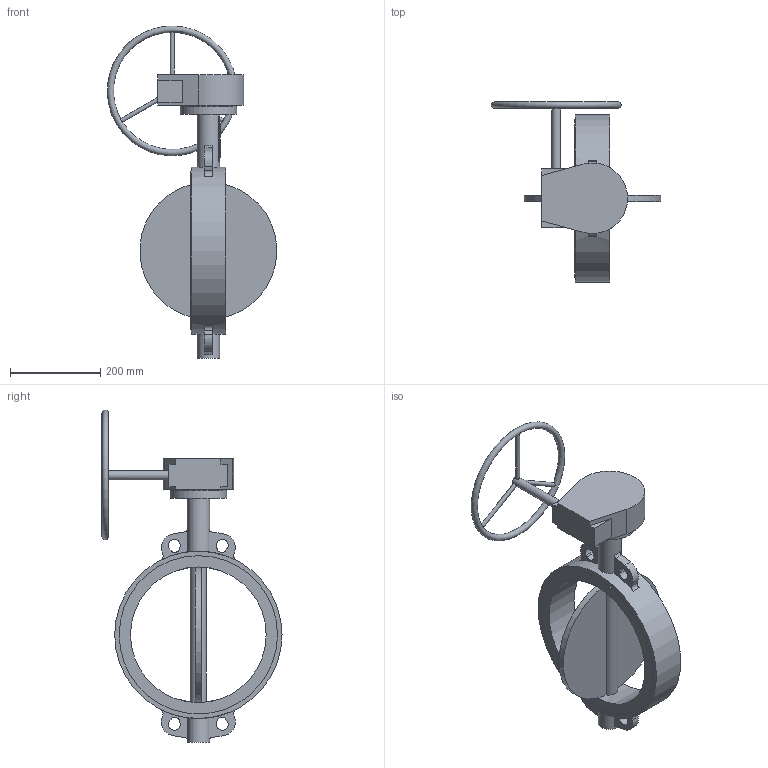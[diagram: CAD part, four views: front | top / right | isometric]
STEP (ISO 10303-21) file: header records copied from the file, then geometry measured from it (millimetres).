
FILE_DESCRIPTION(('STEP AP203'), '1');
FILE_NAME('青蜮铕 015WDN300 疱潴牝铕', '', ('UNSPECIFIED'), ('UNSPECIFIED'), 'ASCON STEP Converter 1.6', 'ASCON Math Kernel', '');
FILE_SCHEMA(('CONFIG_CONTROL_DESIGN'));
Length unit declared in the file: millimetre
Bounding box: 374.26 x 398 x 733.99 mm (x, y, z)
Volume: 1871179.8 mm3; surface area: 634788.6 mm2
Topology: 1 solids, 2 shells, 728 faces, 2129 edges, 1374 vertices
Faces by surface type: cylinder 517, plane 204, bspline 6, torus 1
Full cylindrical faces by diameter (mm): 8.5 x4, 9 x3, 12 x4, 20 x1, 31.6 x1, 50 x2, 70 x1, 125 x2, 300 x1, 350 x2, 370 x1
Entity records: 33101 total; most frequent: CARTESIAN_POINT 7067, DIRECTION 4587, ORIENTED_EDGE 4147, EDGE_CURVE 2105, AXIS2_PLACEMENT_3D 1803, VERTEX_POINT 1373, CIRCLE 1080, LINE 981
